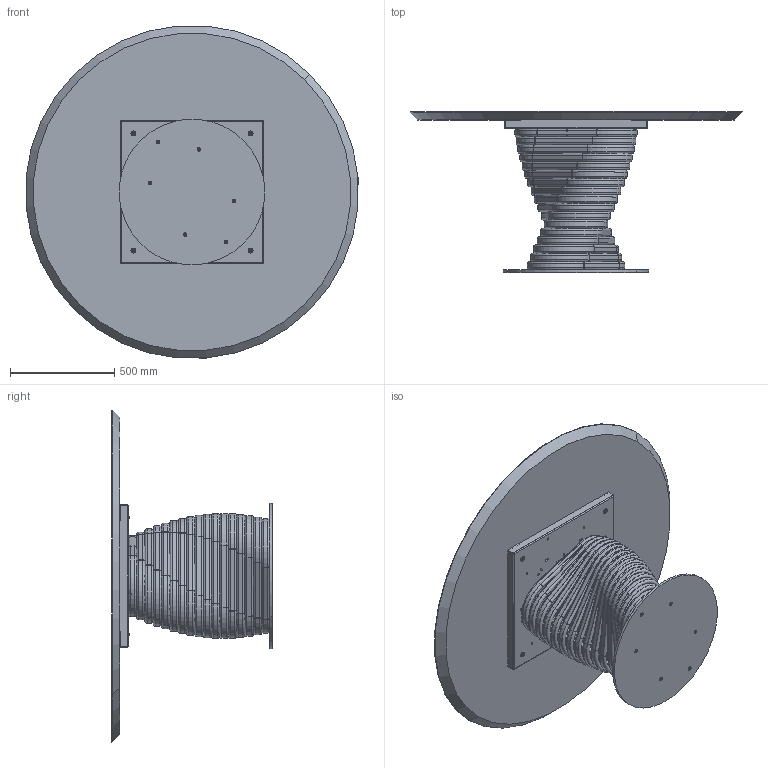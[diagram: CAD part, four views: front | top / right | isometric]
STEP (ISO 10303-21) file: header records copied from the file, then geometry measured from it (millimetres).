
FILE_DESCRIPTION (( 'STEP AP203' ), '1' );
FILE_NAME ('RO08W.STEP', '2024-08-07T13:08:52', ( '' ), ( '' ), 'SwSTEP 2.0', 'SolidWorks 2022', '' );
FILE_SCHEMA (( 'CONFIG_CONTROL_DESIGN' ));
Length unit declared in the file: millimetre
Products named in the file (15): TTAV0801-02-TELAIO UNIVERSALE TONDO; TTAV0801-02-TELAIO UNIVERSALE TONDO-VASSOIO; M8xXXmm_M8x55mm; COLLO TELAIO UNIVERSALE TTAV0801 CON FERRAMENTA_MTG TOP LEGNO-MARMO-KING; M8xXXmm_hex_M8X20mm; M8xXXmm_M8x20mm; ROBX00000-00-ROTOLO BASE 17 ANELLI; W1XCMXX-00-Piani Rotondi legno_D.1600; RO08W; rondella M8_8X24; TTAV0801 TELAIO UNIVERSALE TONDO-PIASTRINA; ROBX00000INF-00-Anello rotolo INFERIORE_Default<A macchina>; ROB200000-00-PIASTRA BASE_Ø70cm; ROBX00000SUP-00-Anello rotolo SUPERIORE_Default<A macchina>; ROBX00000MED-00-Anello rotolo MEDIO_Default<A macchina>
Assembly tree (49 placements, depth 4):
  RO08W
    ROB200000-00-PIASTRA BASE_Ø70cm
    ROBX00000-00-ROTOLO BASE 17 ANELLI
      ROBX00000INF-00-Anello rotolo INFERIORE_Default<A macchina>
      ROBX00000MED-00-Anello rotolo MEDIO_Default<A macchina>  x15
      ROBX00000SUP-00-Anello rotolo SUPERIORE_Default<A macchina>
    M8xXXmm_hex_M8X20mm  x6
    COLLO TELAIO UNIVERSALE TTAV0801 CON FERRAMENTA_MTG TOP LEGNO-MARMO-KING
      TTAV0801-02-TELAIO UNIVERSALE TONDO
        TTAV0801-02-TELAIO UNIVERSALE TONDO-VASSOIO
        TTAV0801 TELAIO UNIVERSALE TONDO-PIASTRINA  x4
      rondella M8_8X24  x4
      M8xXXmm_M8x55mm  x4
    rondella M8_8X24  x4
    M8xXXmm_M8x20mm  x4
    W1XCMXX-00-Piani Rotondi legno_D.1600
Bounding box: 1593.91 x 772 x 1593.91 mm (x, y, z)
Volume: 88843574.2 mm3; surface area: 10998359.6 mm2
Topology: 97 solids, 97 shells, 1790 faces, 4364 edges, 2740 vertices
Faces by surface type: plane 742, cylinder 650, torus 244, cone 154
Entity records: 23748 total; most frequent: CARTESIAN_POINT 5254, DIRECTION 3469, ORIENTED_EDGE 3242, EDGE_CURVE 1621, AXIS2_PLACEMENT_3D 1284, VERTEX_POINT 1039, VECTOR 901, LINE 901
